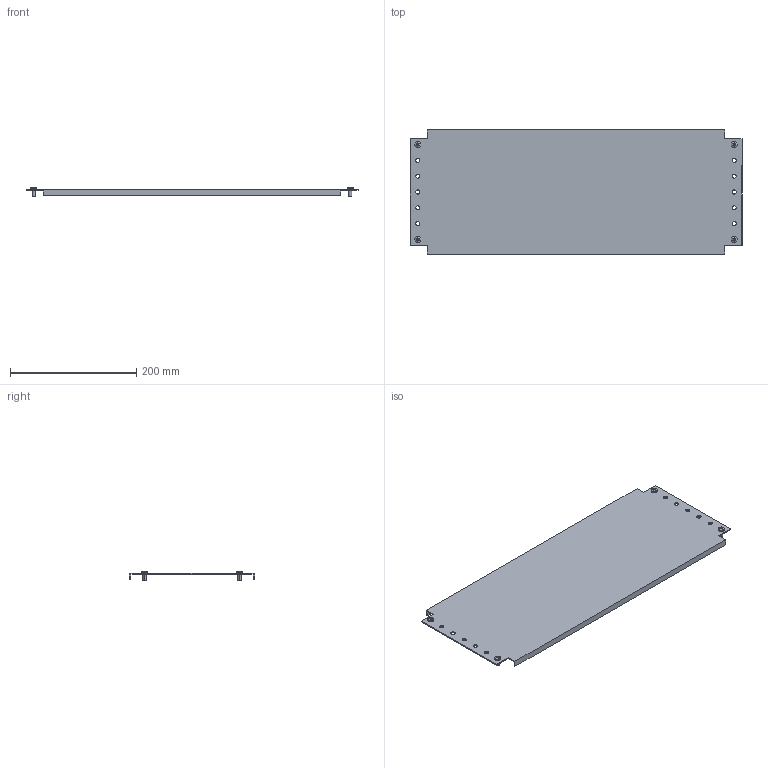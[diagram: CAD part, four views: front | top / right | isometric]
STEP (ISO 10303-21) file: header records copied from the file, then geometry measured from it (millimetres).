
FILE_DESCRIPTION (( 'STEP AP203' ), '1' );
FILE_NAME ('R6MPP02600.STEP', '2025-05-16T08:09:40', ( '' ), ( '' ), 'SwSTEP 2.0', 'SolidWorks 2022', '' );
FILE_SCHEMA (( 'CONFIG_CONTROL_DESIGN' ));
Length unit declared in the file: millimetre
Products named in the file (3): R6MPP02600; RB.3313.00.00.0 simple_-02; M5x12 DIN 7500 C Torx Zinc_stright
Assembly tree (5 placements, depth 2):
  R6MPP02600
    RB.3313.00.00.0 simple_-02
    M5x12 DIN 7500 C Torx Zinc_stright  x4
Bounding box: 525 x 198 x 15.56 mm (x, y, z)
Volume: 198939.8 mm3; surface area: 224056.5 mm2
Topology: 5 solids, 5 shells, 150 faces, 356 edges, 212 vertices
Faces by surface type: plane 58, cylinder 44, cone 16, torus 16, bspline 8, sphere 8
Entity records: 3055 total; most frequent: CARTESIAN_POINT 633, DIRECTION 446, ORIENTED_EDGE 408, EDGE_CURVE 204, AXIS2_PLACEMENT_3D 168, VERTEX_POINT 131, VECTOR 110, LINE 110
